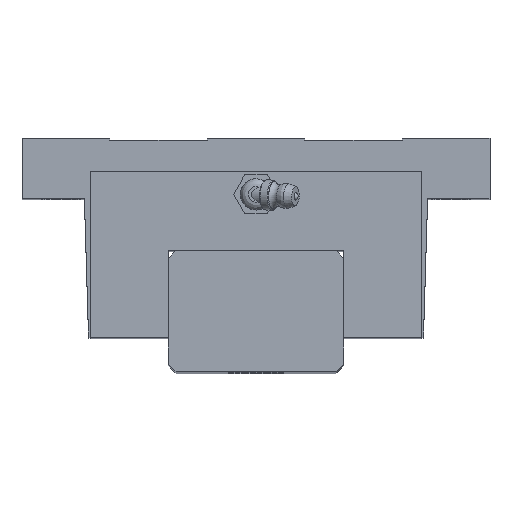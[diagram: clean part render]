
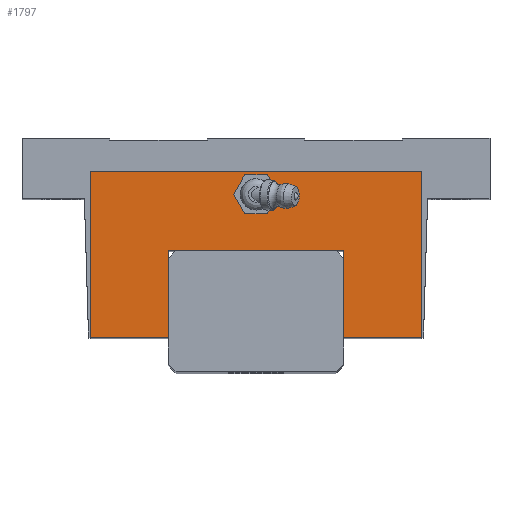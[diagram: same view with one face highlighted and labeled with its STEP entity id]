
A CAD part, top view. The second image highlights one B-rep face of the part: STEP entity #1797.
In plain terms, the highlighted planar face has unit normal (0, 0, 1).
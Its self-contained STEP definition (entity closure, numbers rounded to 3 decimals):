
#712=CARTESIAN_POINT('',(4.,19.8,72.5));
#713=VERTEX_POINT('',#712);
#714=CARTESIAN_POINT('',(0.,19.8,72.5));
#715=DIRECTION('',(0.0,0.0,-1.0));
#716=DIRECTION('',(-1.0,0.0,0.0));
#717=AXIS2_PLACEMENT_3D('',#714,#715,#716);
#718=CIRCLE('',#717,4.0);
#719=EDGE_CURVE('',#713,#713,#718,.T.);
#1479=CARTESIAN_POINT('',(22.5,-16.9,72.5));
#1480=VERTEX_POINT('',#1479);
#1504=CARTESIAN_POINT('',(42.5,-16.9,72.5));
#1505=VERTEX_POINT('',#1504);
#1512=CARTESIAN_POINT('',(22.5,-16.9,72.5));
#1513=DIRECTION('',(1.0,0.0,0.0));
#1514=VECTOR('',#1513,20.0);
#1515=LINE('',#1512,#1514);
#1516=EDGE_CURVE('',#1480,#1505,#1515,.T.);
#1528=CARTESIAN_POINT('',(-22.5,-16.9,72.5));
#1529=VERTEX_POINT('',#1528);
#1536=CARTESIAN_POINT('',(-42.5,-16.9,72.5));
#1537=VERTEX_POINT('',#1536);
#1538=CARTESIAN_POINT('',(-42.5,-16.9,72.5));
#1539=DIRECTION('',(1.0,0.0,0.0));
#1540=VECTOR('',#1539,20.0);
#1541=LINE('',#1538,#1540);
#1542=EDGE_CURVE('',#1537,#1529,#1541,.T.);
#1581=CARTESIAN_POINT('',(22.5,5.3,72.5));
#1582=VERTEX_POINT('',#1581);
#1583=CARTESIAN_POINT('',(22.5,-16.9,72.5));
#1584=DIRECTION('',(0.0,1.0,0.0));
#1585=VECTOR('',#1584,22.2);
#1586=LINE('',#1583,#1585);
#1587=EDGE_CURVE('',#1480,#1582,#1586,.T.);
#1679=CARTESIAN_POINT('',(42.5,25.7,72.5));
#1680=VERTEX_POINT('',#1679);
#1687=CARTESIAN_POINT('',(42.5,-16.9,72.5));
#1688=DIRECTION('',(0.0,1.0,0.0));
#1689=VECTOR('',#1688,42.6);
#1690=LINE('',#1687,#1689);
#1691=EDGE_CURVE('',#1505,#1680,#1690,.T.);
#1720=CARTESIAN_POINT('',(-42.5,25.7,72.5));
#1721=VERTEX_POINT('',#1720);
#1728=CARTESIAN_POINT('',(42.5,25.7,72.5));
#1729=DIRECTION('',(-1.0,0.0,0.0));
#1730=VECTOR('',#1729,85.0);
#1731=LINE('',#1728,#1730);
#1732=EDGE_CURVE('',#1680,#1721,#1731,.T.);
#1757=CARTESIAN_POINT('',(-42.5,25.7,72.5));
#1758=DIRECTION('',(0.0,-1.0,0.0));
#1759=VECTOR('',#1758,42.6);
#1760=LINE('',#1757,#1759);
#1761=EDGE_CURVE('',#1721,#1537,#1760,.T.);
#1767=CARTESIAN_POINT('',(0.0,0.0,72.5));
#1768=DIRECTION('',(0.0,0.0,1.0));
#1769=DIRECTION('',(1.0,0.0,0.0));
#1770=AXIS2_PLACEMENT_3D('',#1767,#1768,#1769);
#1771=PLANE('',#1770);
#1772=ORIENTED_EDGE('',*,*,#1587,.F.);
#1773=ORIENTED_EDGE('',*,*,#1516,.T.);
#1774=ORIENTED_EDGE('',*,*,#1691,.T.);
#1775=ORIENTED_EDGE('',*,*,#1732,.T.);
#1776=ORIENTED_EDGE('',*,*,#1761,.T.);
#1777=ORIENTED_EDGE('',*,*,#1542,.T.);
#1778=CARTESIAN_POINT('',(-22.5,5.3,72.5));
#1779=VERTEX_POINT('',#1778);
#1780=CARTESIAN_POINT('',(-22.5,-16.9,72.5));
#1781=DIRECTION('',(0.0,1.0,0.0));
#1782=VECTOR('',#1781,22.2);
#1783=LINE('',#1780,#1782);
#1784=EDGE_CURVE('',#1529,#1779,#1783,.T.);
#1785=ORIENTED_EDGE('',*,*,#1784,.T.);
#1786=CARTESIAN_POINT('',(22.5,5.3,72.5));
#1787=DIRECTION('',(-1.0,0.0,0.0));
#1788=VECTOR('',#1787,45.0);
#1789=LINE('',#1786,#1788);
#1790=EDGE_CURVE('',#1582,#1779,#1789,.T.);
#1791=ORIENTED_EDGE('',*,*,#1790,.F.);
#1792=EDGE_LOOP('',(#1772,#1773,#1774,#1775,#1776,#1777,#1785,#1791));
#1793=FACE_OUTER_BOUND('',#1792,.T.);
#1794=ORIENTED_EDGE('',*,*,#719,.T.);
#1795=EDGE_LOOP('',(#1794));
#1796=FACE_BOUND('',#1795,.T.);
#1797=ADVANCED_FACE('',(#1793,#1796),#1771,.T.);
